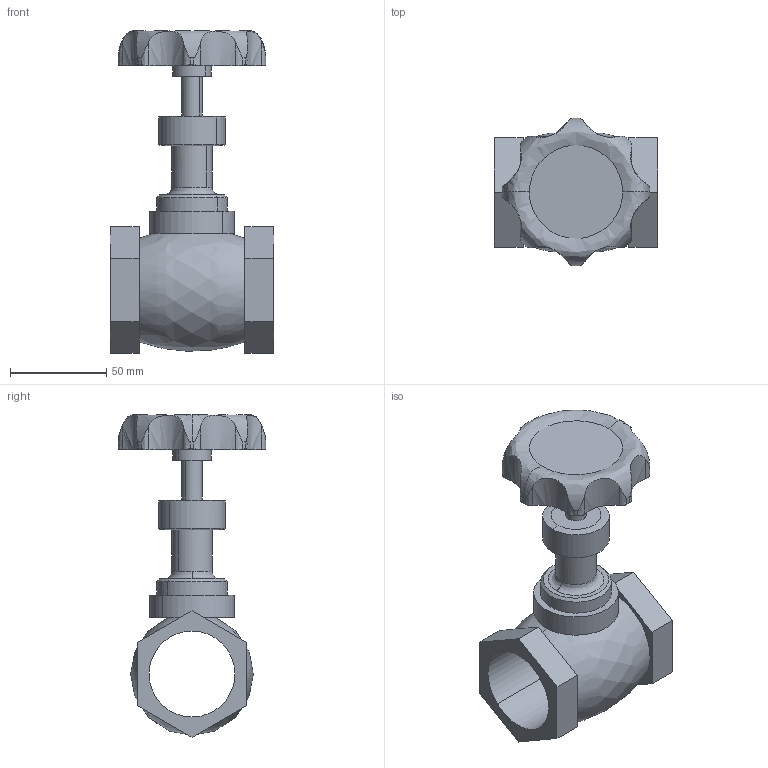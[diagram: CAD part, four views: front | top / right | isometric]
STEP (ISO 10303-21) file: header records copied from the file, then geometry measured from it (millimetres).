
FILE_DESCRIPTION((''),'2;1');
FILE_NAME('','2018-10-23T13:27:36',(''),(''),'','CADfix','');
FILE_SCHEMA(('AUTOMOTIVE_DESIGN { 1 0 10303 214 1 1 1 1 }'));
Length unit declared in the file: millimetre
Bounding box: 85 x 76.98 x 167.91 mm (x, y, z)
Volume: 226810.7 mm3; surface area: 53029.3 mm2
Topology: 1 solids, 1 shells, 90 faces, 303 edges, 224 vertices
Faces by surface type: bspline 90
Entity records: 5815 total; most frequent: CARTESIAN_POINT 4060, ORIENTED_EDGE 606, EDGE_CURVE 303, VERTEX_POINT 224, B_SPLINE_CURVE_WITH_KNOTS 204, EDGE_LOOP 101, FACE_OUTER_BOUND 90, ADVANCED_FACE 90
